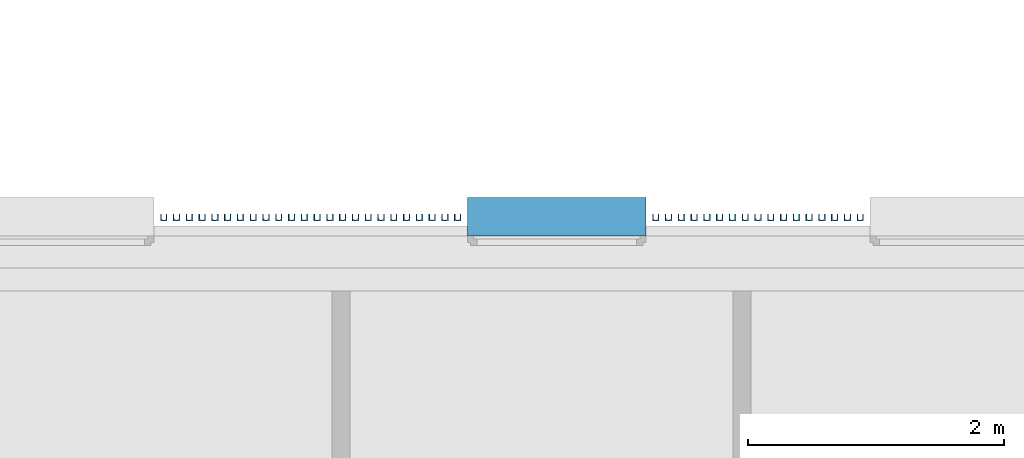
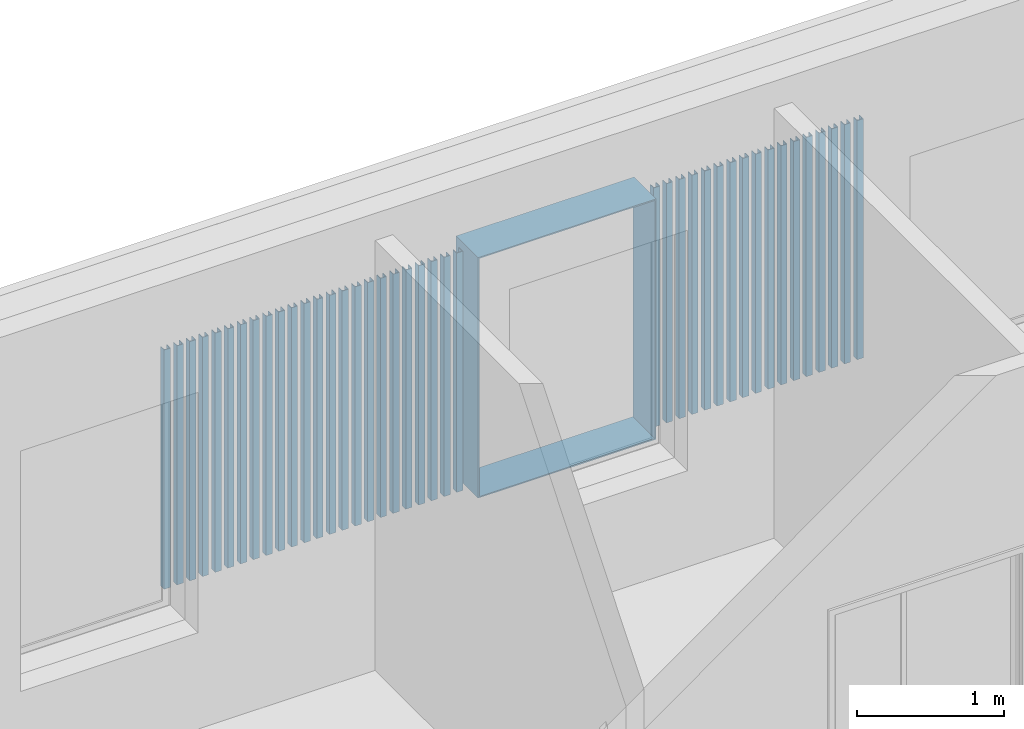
# One storey, part 20 of 100: 42 discrete accessories.
"""IFC2X3 building model written with IfcOpenShell, lengths in millimetres."""

from ifc_helpers import new_model, entity, si_unit, converted_unit, derived_unit, money_unit, direction, frame, origin_with_axes, place, context, subcontext, project, spatial, faceted_brep, source, transform, mapped, material, type_object, element, save


model = new_model("IFC2X3")

# Units and contexts
model_context = context("Model", 3, precision=0.01, world=origin_with_axes(), true_north=direction((0.0, 1.0)))
body_context = subcontext(model_context, "Body", "Model", "MODEL_VIEW")
ifc_project = project(units=[si_unit("LENGTHUNIT", "METRE", prefix="MILLI"), si_unit("AREAUNIT", "SQUARE_METRE"), si_unit("VOLUMEUNIT", "CUBIC_METRE"), converted_unit("PLANEANGLEUNIT", "DEGREE", entity("IfcPlaneAngleMeasure", 0.0174532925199), si_unit("PLANEANGLEUNIT", "RADIAN"), dimensions=[0, 0, 0, 0, 0, 0, 0]), si_unit("SOLIDANGLEUNIT", "STERADIAN"), money_unit("EUR"), converted_unit("TIMEUNIT", "Year", entity("IfcTimeMeasure", 31556926.0), si_unit("TIMEUNIT", "SECOND"), dimensions=[0, 0, 1, 0, 0, 0, 0]), si_unit("MASSUNIT", "GRAM", prefix="KILO"), si_unit("THERMODYNAMICTEMPERATUREUNIT", "DEGREE_CELSIUS"), si_unit("LUMINOUSINTENSITYUNIT", "LUMEN"), si_unit("ENERGYUNIT", "JOULE", prefix="MEGA"), derived_unit("THERMALCONDUCTANCEUNIT", [(si_unit("POWERUNIT", "WATT"), 1), (si_unit("LENGTHUNIT", "METRE"), -1), (si_unit("THERMODYNAMICTEMPERATUREUNIT", "KELVIN"), -1)]), derived_unit("SPECIFICHEATCAPACITYUNIT", [(si_unit("ENERGYUNIT", "JOULE"), 1), (si_unit("MASSUNIT", "GRAM", prefix="KILO"), -1), (si_unit("THERMODYNAMICTEMPERATUREUNIT", "KELVIN"), -1)]), derived_unit("MASSDENSITYUNIT", [(si_unit("MASSUNIT", "GRAM", prefix="KILO"), 1), (si_unit("VOLUMEUNIT", "CUBIC_METRE"), -1)])], contexts=[model_context])

# Site, building, storey
site_placement = place(None, origin_with_axes())
site = spatial("IfcSite", under=ifc_project, at=site_placement, Name="Politse- ja Piirivalveameti ning Päästeameti ühishoone", CompositionType="ELEMENT")
building_placement = place(site_placement, origin_with_axes())
building = spatial("IfcBuilding", under=site, at=building_placement, Name="Politse- ja Piirivalveameti ning Päästeameti ühishoone", CompositionType="ELEMENT")
storey_placement = place(building_placement, frame((0.0, 0.0, 3800.0), z_axis=(0.0, 0.0, 1.0), x_axis=(1.0, 0.0, 0.0)))
storey = spatial("IfcBuildingStorey", under=building, at=storey_placement, Name="Teine korrus", CompositionType="ELEMENT", Elevation=3800.0)

# Discrete accessories
ifc_material_1 = material(Name="SV-01_Krohv - Kips")
discrete_accessory_type_1 = type_object("IfcDiscreteAccessoryType", Name="Architrave 01 23")
shared_shape_1 = source(origin_with_axes(), body_context, "Body", "Brep", [
    faceted_brep([(700.0, 0.0, -10.0), (700.0, -300.182356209, -10.0), (-700.0, -300.182356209, -10.0), (-700.0, 0.0, -10.0), (690.0, 0.0, 0.0), (690.0, -300.182356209, 0.0), (-690.0, -300.182356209, 0.0), (-690.0, 0.0, 0.0)], [[[0, 1, 2, 3]], [[4, 5, 1, 0]], [[1, 5, 6, 2]], [[3, 2, 6, 7]], [[0, 3, 7, 4]], [[7, 6, 5, 4]]]),
    faceted_brep([(-700.0, 0.0, -10.0), (-700.0, -300.182356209, -10.0), (-700.0, -300.182356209, 1990.0), (-700.0, 0.0, 1990.0), (-690.0, 0.0, 0.0), (-690.0, -300.182356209, 0.0), (-690.0, -300.182356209, 1980.0), (-690.0, 0.0, 1980.0)], [[[0, 1, 2, 3]], [[4, 5, 1, 0]], [[1, 5, 6, 2]], [[3, 2, 6, 7]], [[0, 3, 7, 4]], [[7, 6, 5, 4]]]),
    faceted_brep([(-700.0, 0.0, 1990.0), (-700.0, -300.182356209, 1990.0), (700.0, -300.182356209, 1990.0), (700.0, 0.0, 1990.0), (-690.0, 0.0, 1980.0), (-690.0, -300.182356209, 1980.0), (690.0, -300.182356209, 1980.0), (690.0, 0.0, 1980.0)], [[[0, 1, 2, 3]], [[4, 5, 1, 0]], [[1, 5, 6, 2]], [[3, 2, 6, 7]], [[0, 3, 7, 4]], [[7, 6, 5, 4]]]),
    faceted_brep([(700.0, 0.0, 1990.0), (700.0, -300.182356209, 1990.0), (700.0, -300.182356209, -10.0), (700.0, 0.0, -10.0), (690.0, 0.0, 1980.0), (690.0, -300.182356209, 1980.0), (690.0, -300.182356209, 0.0), (690.0, 0.0, 0.0)], [[[0, 1, 2, 3]], [[4, 5, 1, 0]], [[1, 5, 6, 2]], [[3, 2, 6, 7]], [[0, 3, 7, 4]], [[7, 6, 5, 4]]]),
])
discrete_accessory_placement = place(storey_placement, frame((22758.8836062, 21429.9520832, 810.0), z_axis=(0.0, 0.0, 1.0), x_axis=(-1.0, 0.0, 0.0)))
element("IfcDiscreteAccessory", 1, at=discrete_accessory_placement, inside=storey, type_object=discrete_accessory_type_1, material=ifc_material_1, Name="AKNARAAM 01", context=body_context, shape_type="MappedRepresentation", body=[
    mapped(shared_shape_1, transform((0.0, 0.0, 0.0))),
])
ifc_material_2 = material(Name="ET-05_Teras")
discrete_accessory_type_2 = type_object("IfcDiscreteAccessoryType", Name="UAP Column 23")
shared_shape_2 = source(origin_with_axes(), body_context, "Body", "Brep", [
    faceted_brep([(-25.0, -25.0, 0.0), (-25.0, -25.0, 1990.0), (-25.0, -20.0, 1990.0), (-25.0, -20.0, 0.0), (25.0, -25.0, 0.0), (25.0, -25.0, 1990.0), (25.0, 25.0, 1990.0), (-25.0, 25.0, 1990.0), (-25.0, 20.0, 1990.0), (8.5, 20.0, 1990.0), (14.25, 18.4592921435, 1990.0), (18.4592921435, 14.25, 1990.0), (20.0, 8.5, 1990.0), (20.0, -8.5, 1990.0), (18.4592921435, -14.25, 1990.0), (14.25, -18.4592921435, 1990.0), (8.5, -20.0, 1990.0), (8.5, -20.0, 0.0), (14.25, -18.4592921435, 0.0), (18.4592921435, -14.25, 0.0), (20.0, -8.5, 0.0), (20.0, 8.5, 0.0), (18.4592921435, 14.25, 0.0), (14.25, 18.4592921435, 0.0), (8.5, 20.0, 0.0), (-25.0, 20.0, 0.0), (-25.0, 25.0, 0.0), (25.0, 25.0, 0.0)], [[[0, 1, 2, 3]], [[4, 5, 1, 0]], [[1, 5, 6, 7, 8, 9, 10, 11, 12, 13, 14, 15, 16, 2]], [[3, 2, 16, 17]], [[0, 3, 17, 18, 19, 20, 21, 22, 23, 24, 25, 26, 27, 4]], [[27, 6, 5, 4]], [[26, 7, 6, 27]], [[25, 8, 7, 26]], [[24, 9, 8, 25]], [[23, 10, 9, 24]], [[22, 11, 10, 23]], [[21, 12, 11, 22]], [[20, 13, 12, 21]], [[19, 14, 13, 20]], [[18, 15, 14, 19]], [[17, 16, 15, 18]]]),
])
for number, where, z_axis, x_axis in (
    (2, (21283.8835834, 21574.5961555, 810.000049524), (0.0, 0.0, 1.0), (1.30049800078e-07, -1.0, 0.0)),
    (3, (20983.8835834, 21574.5961165, 810.000049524), (0.0, 0.0, 1.0), (1.30049800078e-07, -1.0, 0.0)),
    (4, (21083.8835834, 21574.5961295, 810.000049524), (0.0, 0.0, 1.0), (1.30049800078e-07, -1.0, 0.0)),
    (5, (21183.8835834, 21574.5961425, 810.000049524), (0.0, 0.0, 1.0), (1.30049800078e-07, -1.0, 0.0)),
    (6, (20683.8835834, 21574.5960775, 810.000049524), (0.0, 0.0, 1.0), (1.30049800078e-07, -1.0, 0.0)),
    (7, (20783.8835834, 21574.5960905, 810.000049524), (0.0, 0.0, 1.0), (1.30049800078e-07, -1.0, 0.0)),
    (8, (20883.8835834, 21574.5961035, 810.000049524), (0.0, 0.0, 1.0), (1.30049800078e-07, -1.0, 0.0)),
    (9, (20383.8835834, 21574.5960385, 810.000049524), (0.0, 0.0, 1.0), (1.30049800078e-07, -1.0, 0.0)),
    (10, (20483.8835834, 21574.5960515, 810.000049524), (0.0, 0.0, 1.0), (1.30049800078e-07, -1.0, 0.0)),
    (11, (20583.8835834, 21574.5960645, 810.000049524), (0.0, 0.0, 1.0), (1.30049800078e-07, -1.0, 0.0)),
    (12, (20183.8835834, 21574.5960125, 810.000049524), (0.0, 0.0, 1.0), (1.30049800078e-07, -1.0, 0.0)),
    (13, (20283.8835834, 21574.5960255, 810.000049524), (0.0, 0.0, 1.0), (1.30049800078e-07, -1.0, 0.0)),
    (14, (19883.8835834, 21574.5959735, 810.000049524), (0.0, 0.0, 1.0), (1.30049800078e-07, -1.0, 0.0)),
    (15, (19983.8835834, 21574.5959865, 810.000049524), (0.0, 0.0, 1.0), (1.30049800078e-07, -1.0, 0.0)),
    (16, (20083.8835834, 21574.5959995, 810.000049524), (0.0, 0.0, 1.0), (1.30049800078e-07, -1.0, 0.0)),
    (17, (19683.8835834, 21574.5959474, 810.000049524), (0.0, 0.0, 1.0), (1.30049800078e-07, -1.0, 0.0)),
    (18, (19783.8835834, 21574.5959604, 810.000049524), (0.0, 0.0, 1.0), (1.30049800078e-07, -1.0, 0.0)),
    (19, (21783.8835834, 21574.5962205, 810.000049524), (0.0, 0.0, 1.0), (1.30049800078e-07, -1.0, 0.0)),
    (20, (21883.8835834, 21574.5962336, 810.000049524), (0.0, 0.0, 1.0), (1.30049800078e-07, -1.0, 0.0)),
    (21, (21983.8835834, 21574.5962466, 810.000049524), (0.0, 0.0, 1.0), (1.30049800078e-07, -1.0, 0.0)),
    (22, (21483.8835834, 21574.5961815, 810.000049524), (0.0, 0.0, 1.0), (1.30049800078e-07, -1.0, 0.0)),
    (23, (21583.8835834, 21574.5961945, 810.000049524), (0.0, 0.0, 1.0), (1.30049800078e-07, -1.0, 0.0)),
    (24, (21683.8835834, 21574.5962075, 810.000049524), (0.0, 0.0, 1.0), (1.30049800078e-07, -1.0, 0.0)),
    (25, (21383.8835834, 21574.5961685, 810.000049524), (0.0, 0.0, 1.0), (1.30049800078e-07, -1.0, 0.0)),
    (26, (24433.8835834, 21574.5961555, 810.000049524), (0.0, 0.0, 1.0), (1.30049800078e-07, -1.0, 0.0)),
    (27, (24133.8835834, 21574.5961165, 810.000049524), (0.0, 0.0, 1.0), (1.30049800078e-07, -1.0, 0.0)),
    (28, (24233.8835834, 21574.5961295, 810.000049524), (0.0, 0.0, 1.0), (1.30049800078e-07, -1.0, 0.0)),
    (29, (24333.8835834, 21574.5961425, 810.000049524), (0.0, 0.0, 1.0), (1.30049800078e-07, -1.0, 0.0)),
    (30, (23833.8835834, 21574.5960775, 810.000049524), (0.0, 0.0, 1.0), (1.30049800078e-07, -1.0, 0.0)),
    (31, (23933.8835834, 21574.5960905, 810.000049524), (0.0, 0.0, 1.0), (1.30049800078e-07, -1.0, 0.0)),
    (32, (24033.8835834, 21574.5961035, 810.000049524), (0.0, 0.0, 1.0), (1.30049800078e-07, -1.0, 0.0)),
    (33, (23533.8835834, 21574.5960385, 810.000049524), (0.0, 0.0, 1.0), (1.30049800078e-07, -1.0, 0.0)),
    (34, (23633.8835834, 21574.5960515, 810.000049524), (0.0, 0.0, 1.0), (1.30049800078e-07, -1.0, 0.0)),
    (35, (23733.8835834, 21574.5960645, 810.000049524), (0.0, 0.0, 1.0), (1.30049800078e-07, -1.0, 0.0)),
    (36, (24933.8835834, 21574.5962205, 810.000049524), (0.0, 0.0, 1.0), (1.30049800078e-07, -1.0, 0.0)),
    (37, (25033.8835834, 21574.5962336, 810.000049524), (0.0, 0.0, 1.0), (1.30049800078e-07, -1.0, 0.0)),
    (38, (25133.8835834, 21574.5962466, 810.000049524), (0.0, 0.0, 1.0), (1.30049800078e-07, -1.0, 0.0)),
    (39, (24633.8835834, 21574.5961815, 810.000049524), (0.0, 0.0, 1.0), (1.30049800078e-07, -1.0, 0.0)),
    (40, (24733.8835834, 21574.5961945, 810.000049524), (0.0, 0.0, 1.0), (1.30049800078e-07, -1.0, 0.0)),
    (41, (24833.8835834, 21574.5962075, 810.000049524), (0.0, 0.0, 1.0), (1.30049800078e-07, -1.0, 0.0)),
    (42, (24533.8835834, 21574.5961685, 810.000049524), (0.0, 0.0, 1.0), (1.30049800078e-07, -1.0, 0.0)),
):
    element("IfcDiscreteAccessory", number, at=place(storey_placement, frame(where, z_axis=z_axis, x_axis=x_axis)), inside=storey, type_object=discrete_accessory_type_2, material=ifc_material_2, Name="Fassaadiribid", context=body_context, shape_type="MappedRepresentation", body=[
        mapped(shared_shape_2, transform((0.0, 0.0, 0.0))),
    ])

save(model, "model.ifc")
